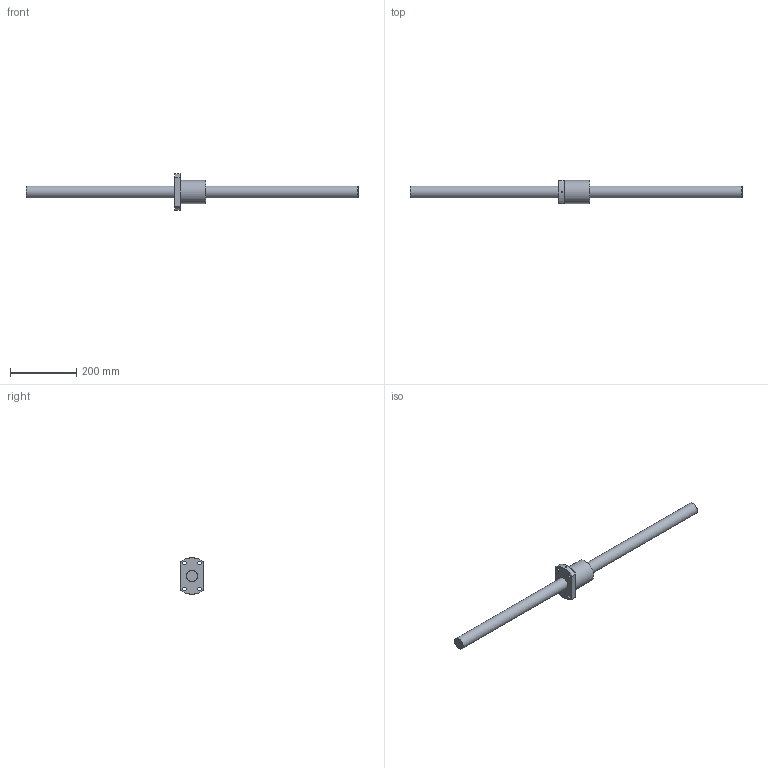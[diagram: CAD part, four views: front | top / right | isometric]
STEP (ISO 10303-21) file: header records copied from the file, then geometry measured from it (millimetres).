
FILE_DESCRIPTION((''),'2;1');
FILE_NAME('D:\製品 (図面)\カタログ用3D\ネジ関連\STEP形式\RBSMA\RBSMA3610-1000.stp','2010-06-02T14:45:15',('Tsuchiya'),(''),'Autodesk Inventor 10','Autodesk Inventor 10','');
FILE_SCHEMA(('AUTOMOTIVE_DESIGN { 1 0 10303 214 1 1 1 1 }'));
Length unit declared in the file: millimetre
Products named in the file (3): RBSMA3610-1000; RBSMA3610-10001; RBSMA3610-10002
Assembly tree (2 placements, depth 2):
  RBSMA3610-1000
    RBSMA3610-10001
    RBSMA3610-10002
Bounding box: 1000 x 70 x 110 mm (x, y, z)
Volume: 1329785.1 mm3; surface area: 161913.5 mm2
Topology: 2 solids, 2 shells, 25 faces, 63 edges, 42 vertices
Faces by surface type: cylinder 9, plane 8, cone 7, bspline 1
Full cylindrical faces by diameter (mm): 11 x4, 36 x2, 70 x1
Entity records: 888 total; most frequent: CARTESIAN_POINT 273, DIRECTION 120, ORIENTED_EDGE 94, AXIS2_PLACEMENT_3D 55, EDGE_LOOP 48, EDGE_CURVE 47, VERTEX_POINT 37, CIRCLE 26
